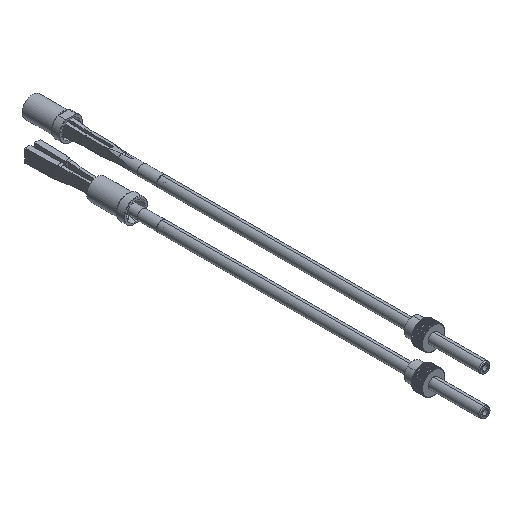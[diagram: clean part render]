
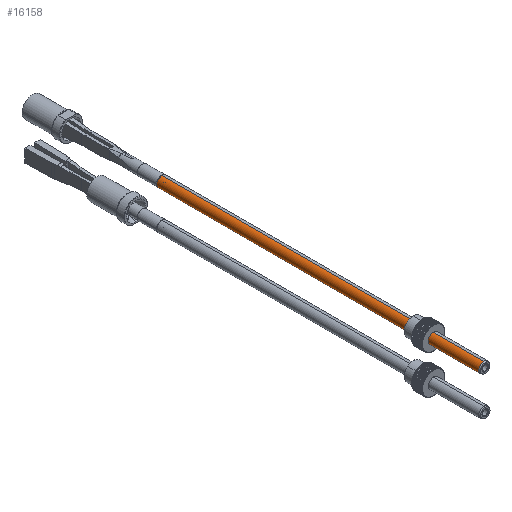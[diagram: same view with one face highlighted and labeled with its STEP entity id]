
A CAD part, isometric view. The second image highlights one B-rep face of the part: STEP entity #16158.
In plain terms, the highlighted cylindrical face has radius 4 mm (diameter 8 mm), a partial arc.
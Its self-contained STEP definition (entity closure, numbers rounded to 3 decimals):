
#17 = ORIENTED_EDGE ( 'NONE', *, *, #19084, .F. ) ;
#733 = VERTEX_POINT ( 'NONE', #23124 ) ;
#1009 = EDGE_CURVE ( 'NONE', #23248, #12298, #8281, .T. ) ;
#2833 = ORIENTED_EDGE ( 'NONE', *, *, #1009, .T. ) ;
#3347 = CARTESIAN_POINT ( 'NONE',  ( 250., 0., -4. ) ) ;
#3878 = CARTESIAN_POINT ( 'NONE',  ( 0., 0., 4. ) ) ;
#3987 = AXIS2_PLACEMENT_3D ( 'NONE', #5360, #18999, #17239 ) ;
#3990 = AXIS2_PLACEMENT_3D ( 'NONE', #14612, #8595, #10542 ) ;
#4771 = EDGE_CURVE ( 'NONE', #20795, #733, #14007, .T. ) ;
#5360 = CARTESIAN_POINT ( 'NONE',  ( 1., 0., 0. ) ) ;
#5783 = DIRECTION ( 'NONE',  ( 0., 0., -1. ) ) ;
#6835 = CYLINDRICAL_SURFACE ( 'NONE', #13254, 4. ) ;
#7448 = FACE_OUTER_BOUND ( 'NONE', #7770, .T. ) ;
#7569 = CARTESIAN_POINT ( 'NONE',  ( 1., 0., -4. ) ) ;
#7586 = LINE ( 'NONE', #16036, #22190 ) ;
#7770 = EDGE_LOOP ( 'NONE', ( #8018, #13453, #2833, #17 ) ) ;
#8018 = ORIENTED_EDGE ( 'NONE', *, *, #4771, .T. ) ;
#8281 = CIRCLE ( 'NONE', #3990, 4. ) ;
#8595 = DIRECTION ( 'NONE',  ( -1., 0., 0. ) ) ;
#10542 = DIRECTION ( 'NONE',  ( 0., 0., -1. ) ) ;
#11563 = EDGE_CURVE ( 'NONE', #733, #23248, #17602, .T. ) ;
#12298 = VERTEX_POINT ( 'NONE', #3347 ) ;
#13254 = AXIS2_PLACEMENT_3D ( 'NONE', #25183, #13503, #5783 ) ;
#13453 = ORIENTED_EDGE ( 'NONE', *, *, #11563, .T. ) ;
#13503 = DIRECTION ( 'NONE',  ( 1., 0., 0. ) ) ;
#14007 = CIRCLE ( 'NONE', #3987, 4. ) ;
#14612 = CARTESIAN_POINT ( 'NONE',  ( 250., 0., 0. ) ) ;
#15333 = DIRECTION ( 'NONE',  ( 1., 0., 0. ) ) ;
#16036 = CARTESIAN_POINT ( 'NONE',  ( 0., 0., -4. ) ) ;
#16158 = ADVANCED_FACE ( 'NONE', ( #7448 ), #6835, .T. ) ;
#17239 = DIRECTION ( 'NONE',  ( 0., 0., -1. ) ) ;
#17602 = LINE ( 'NONE', #3878, #21578 ) ;
#18999 = DIRECTION ( 'NONE',  ( 1., 0., 0. ) ) ;
#19084 = EDGE_CURVE ( 'NONE', #20795, #12298, #7586, .T. ) ;
#20795 = VERTEX_POINT ( 'NONE', #7569 ) ;
#21578 = VECTOR ( 'NONE', #15333, 1000. ) ;
#21659 = CARTESIAN_POINT ( 'NONE',  ( 250., 0., 4. ) ) ;
#21971 = DIRECTION ( 'NONE',  ( 1., 0., 0. ) ) ;
#22190 = VECTOR ( 'NONE', #21971, 1000. ) ;
#23124 = CARTESIAN_POINT ( 'NONE',  ( 1., 0., 4. ) ) ;
#23248 = VERTEX_POINT ( 'NONE', #21659 ) ;
#25183 = CARTESIAN_POINT ( 'NONE',  ( 0., 0., 0. ) ) ;
